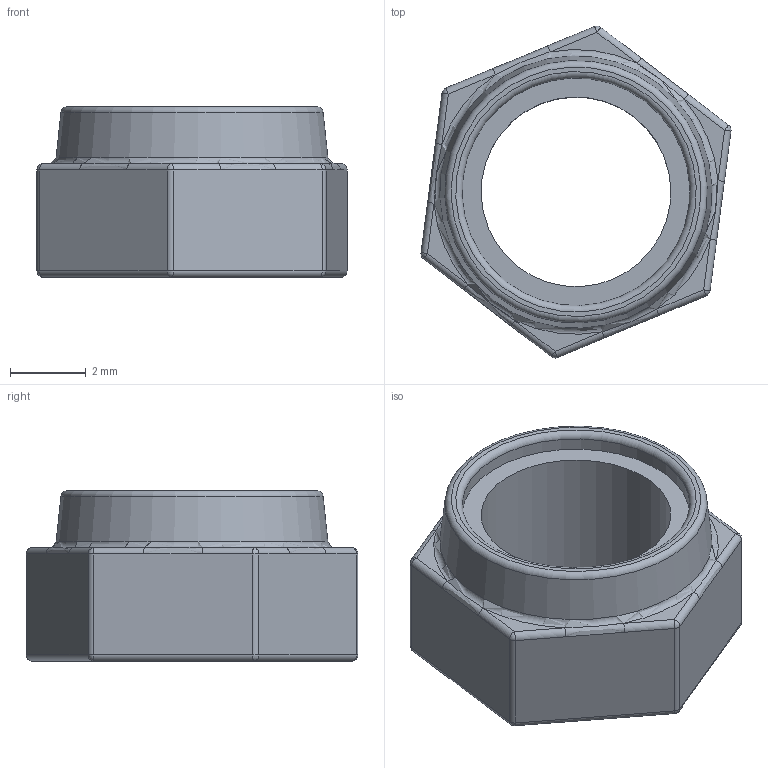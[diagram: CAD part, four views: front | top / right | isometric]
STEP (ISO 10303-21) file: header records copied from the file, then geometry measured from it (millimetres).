
FILE_DESCRIPTION(/* description */ ('STEP AP242 Edition 2','CAx-IF Rec.Pracs.---Representation and Presentation of Product Manufacturing Information (PMI)---4.0---2014-10-13','CAx-IF Rec.Pracs.---3D Tessellated Geometry---0.4---2014-09-14','2;1','CAx-IF Rec.Pracs.---User Defined Attributes---1.5---2016-08-15'),/* implementation_level */ '2;1');
FILE_NAME(/* name */ 'Final Build - M5 Locknut nut (2)',/* time_stamp */ '2026-08-31T23:26:15Z',/* author */ (''),/* organization */ (''),/* preprocessor_version */ 'ST-DEVELOPER v20',/* originating_system */ 'ONSHAPE BY PTC INC, 1.220',/* authorisation */ ' ');
FILE_SCHEMA (('AP242_MANAGED_MODEL_BASED_3D_ENGINEERING_MIM_LF { 1 0 10303 442 3 1 4 }'));
Length unit declared in the file: metre
Products named in the file (1): M5 Locknut nut
Bounding box: 8.17 x 8.74 x 4.5 mm (x, y, z)
Volume: 118.6 mm3; surface area: 236.8 mm2
Topology: 1 solids, 1 shells, 63 faces, 143 edges, 71 vertices
Faces by surface type: cylinder 26, plane 15, sphere 12, bspline 6, torus 3, cone 1
Full cylindrical faces by diameter (mm): 5 x1, 6 x1
Entity records: 1704 total; most frequent: CARTESIAN_POINT 397, DIRECTION 288, ORIENTED_EDGE 246, EDGE_CURVE 123, AXIS2_PLACEMENT_3D 120, EDGE_LOOP 72, FACE_BOUND 72, VERTEX_POINT 69
